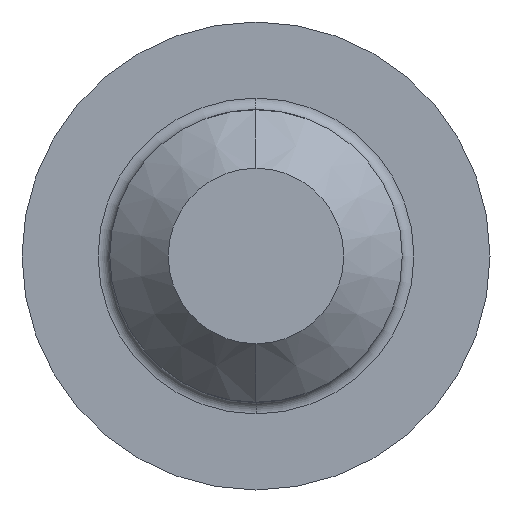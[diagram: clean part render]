
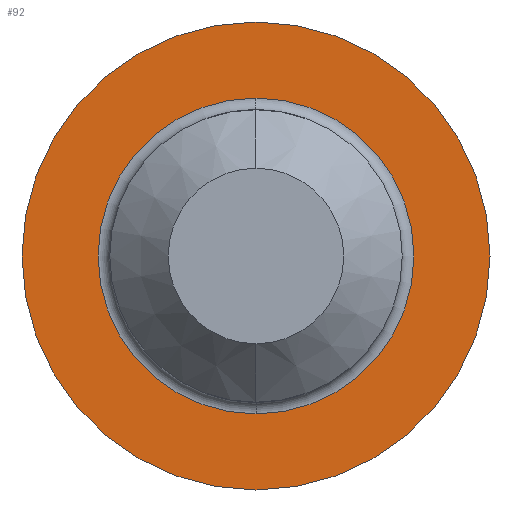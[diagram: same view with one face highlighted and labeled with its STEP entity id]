
A CAD part, left-side view. The second image highlights one B-rep face of the part: STEP entity #92.
In plain terms, the highlighted planar face has unit normal (-1, 0, 0).
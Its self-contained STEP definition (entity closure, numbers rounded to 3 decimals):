
#4 = EDGE_CURVE ( 'NONE', #61, #58, #73, .T. ) ;
#58 = VERTEX_POINT ( 'NONE', #279 ) ;
#61 = VERTEX_POINT ( 'NONE', #391 ) ;
#73 = CIRCLE ( 'NONE', #224, 2.7 ) ;
#86 = VERTEX_POINT ( 'NONE', #270 ) ;
#88 = VERTEX_POINT ( 'NONE', #434 ) ;
#91 = ORIENTED_EDGE ( 'NONE', *, *, #4, .T. ) ;
#92 = ADVANCED_FACE ( 'NONE', ( #428, #255 ), #254, .F. ) ;
#95 = ORIENTED_EDGE ( 'NONE', *, *, #110, .T. ) ;
#103 = ORIENTED_EDGE ( 'NONE', *, *, #105, .T. ) ;
#105 = EDGE_CURVE ( 'NONE', #58, #61, #403, .T. ) ;
#107 = EDGE_LOOP ( 'NONE', ( #103, #91 ) ) ;
#110 = EDGE_CURVE ( 'NONE', #86, #88, #321, .T. ) ;
#124 = ORIENTED_EDGE ( 'NONE', *, *, #182, .T. ) ;
#128 = EDGE_LOOP ( 'NONE', ( #124, #95 ) ) ;
#182 = EDGE_CURVE ( 'NONE', #88, #86, #329, .T. ) ;
#223 = DIRECTION ( 'NONE',  ( 0., 0., -1. ) ) ;
#224 = AXIS2_PLACEMENT_3D ( 'NONE', #237, #231, #223 ) ;
#231 = DIRECTION ( 'NONE',  ( 1., 0., 0. ) ) ;
#237 = CARTESIAN_POINT ( 'NONE',  ( 0., 0., 0. ) ) ;
#252 = CARTESIAN_POINT ( 'NONE',  ( 0., 0., 0. ) ) ;
#254 = PLANE ( 'NONE',  #398 ) ;
#255 = FACE_OUTER_BOUND ( 'NONE', #128, .T. ) ;
#270 = CARTESIAN_POINT ( 'NONE',  ( 0., 0., -4. ) ) ;
#279 = CARTESIAN_POINT ( 'NONE',  ( 0., 0., -2.7 ) ) ;
#318 = DIRECTION ( 'NONE',  ( 0., 0., 1. ) ) ;
#319 = DIRECTION ( 'NONE',  ( -1., 0., 0. ) ) ;
#320 = AXIS2_PLACEMENT_3D ( 'NONE', #405, #319, #318 ) ;
#321 = CIRCLE ( 'NONE', #320, 4. ) ;
#323 = CARTESIAN_POINT ( 'NONE',  ( 0., 0., 0. ) ) ;
#324 = DIRECTION ( 'NONE',  ( 0., 0., -1. ) ) ;
#325 = DIRECTION ( 'NONE',  ( 1., 0., 0. ) ) ;
#329 = CIRCLE ( 'NONE', #354, 4. ) ;
#354 = AXIS2_PLACEMENT_3D ( 'NONE', #323, #371, #370 ) ;
#370 = DIRECTION ( 'NONE',  ( 0., 0., 1. ) ) ;
#371 = DIRECTION ( 'NONE',  ( -1., 0., 0. ) ) ;
#391 = CARTESIAN_POINT ( 'NONE',  ( 0., 0., 2.7 ) ) ;
#395 = DIRECTION ( 'NONE',  ( 0., 0., -1. ) ) ;
#396 = DIRECTION ( 'NONE',  ( 1., 0., 0. ) ) ;
#397 = CARTESIAN_POINT ( 'NONE',  ( 0., 4., 0. ) ) ;
#398 = AXIS2_PLACEMENT_3D ( 'NONE', #397, #396, #395 ) ;
#403 = CIRCLE ( 'NONE', #407, 2.7 ) ;
#405 = CARTESIAN_POINT ( 'NONE',  ( 0., 0., 0. ) ) ;
#407 = AXIS2_PLACEMENT_3D ( 'NONE', #252, #325, #324 ) ;
#428 = FACE_BOUND ( 'NONE', #107, .T. ) ;
#434 = CARTESIAN_POINT ( 'NONE',  ( 0., 0., 4. ) ) ;
